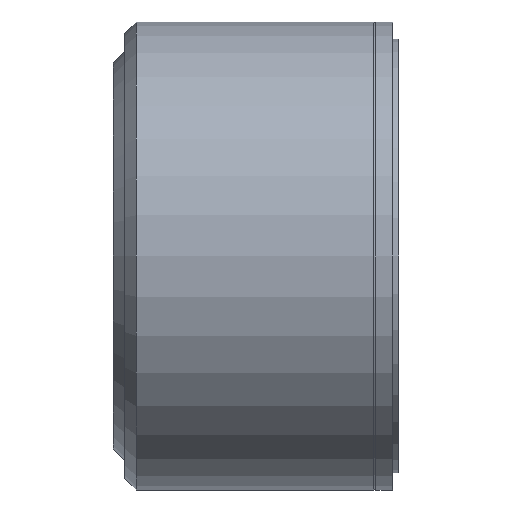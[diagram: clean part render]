
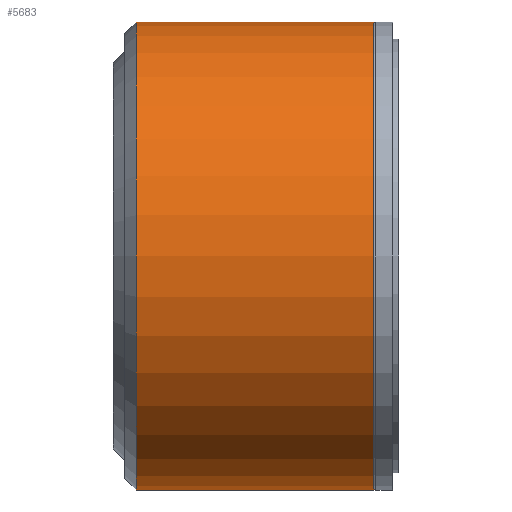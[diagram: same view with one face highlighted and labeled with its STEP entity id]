
A CAD part, left-side view. The second image highlights one B-rep face of the part: STEP entity #5683.
In plain terms, the highlighted cylindrical face has radius 20.5 mm (diameter 41 mm), a partial arc.
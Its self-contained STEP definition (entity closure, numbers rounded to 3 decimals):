
#604 = CARTESIAN_POINT ( 'NONE',  ( 0., -10.3, -20.5 ) ) ;
#2321 = CARTESIAN_POINT ( 'NONE',  ( 0., 10.5, -20.5 ) ) ;
#2438 = VERTEX_POINT ( 'NONE', #2321 ) ;
#2753 = DIRECTION ( 'NONE',  ( 0., 1., 0. ) ) ;
#3576 = EDGE_LOOP ( 'NONE', ( #23448, #8601, #22771, #23367 ) ) ;
#5683 = ADVANCED_FACE ( 'NONE', ( #19057 ), #18915, .T. ) ;
#6016 = CARTESIAN_POINT ( 'NONE',  ( 0., 12.5, 0. ) ) ;
#6397 = DIRECTION ( 'NONE',  ( 0., 0., 1. ) ) ;
#7162 = CARTESIAN_POINT ( 'NONE',  ( 0., 12.5, -20.5 ) ) ;
#7188 = DIRECTION ( 'NONE',  ( 0., 0., 1. ) ) ;
#7379 = VECTOR ( 'NONE', #11792, 1000. ) ;
#8601 = ORIENTED_EDGE ( 'NONE', *, *, #15962, .T. ) ;
#9127 = AXIS2_PLACEMENT_3D ( 'NONE', #20510, #27339, #7188 ) ;
#11506 = LINE ( 'NONE', #7162, #7379 ) ;
#11792 = DIRECTION ( 'NONE',  ( 0., 1., 0. ) ) ;
#12545 = AXIS2_PLACEMENT_3D ( 'NONE', #6016, #14844, #16735 ) ;
#13902 = CARTESIAN_POINT ( 'NONE',  ( 0., 12.5, 20.5 ) ) ;
#14844 = DIRECTION ( 'NONE',  ( 0., 1., 0. ) ) ;
#15962 = EDGE_CURVE ( 'NONE', #27476, #23607, #23108, .T. ) ;
#16668 = EDGE_CURVE ( 'NONE', #27476, #2438, #11506, .T. ) ;
#16735 = DIRECTION ( 'NONE',  ( 0., 0., 1. ) ) ;
#18915 = CYLINDRICAL_SURFACE ( 'NONE', #12545, 20.5 ) ;
#19057 = FACE_OUTER_BOUND ( 'NONE', #3576, .T. ) ;
#19238 = VERTEX_POINT ( 'NONE', #26627 ) ;
#19717 = CARTESIAN_POINT ( 'NONE',  ( 0., -10.3, 0. ) ) ;
#20372 = EDGE_CURVE ( 'NONE', #23607, #19238, #23047, .T. ) ;
#20443 = VECTOR ( 'NONE', #2753, 1000. ) ;
#20510 = CARTESIAN_POINT ( 'NONE',  ( 0., 10.5, 0. ) ) ;
#21188 = CARTESIAN_POINT ( 'NONE',  ( 0., -10.3, 20.5 ) ) ;
#22078 = CIRCLE ( 'NONE', #9127, 20.5 ) ;
#22771 = ORIENTED_EDGE ( 'NONE', *, *, #20372, .T. ) ;
#22838 = EDGE_CURVE ( 'NONE', #2438, #19238, #22078, .T. ) ;
#23047 = LINE ( 'NONE', #13902, #20443 ) ;
#23108 = CIRCLE ( 'NONE', #27266, 20.5 ) ;
#23367 = ORIENTED_EDGE ( 'NONE', *, *, #22838, .F. ) ;
#23448 = ORIENTED_EDGE ( 'NONE', *, *, #16668, .F. ) ;
#23607 = VERTEX_POINT ( 'NONE', #21188 ) ;
#25820 = DIRECTION ( 'NONE',  ( 0., 1., 0. ) ) ;
#26627 = CARTESIAN_POINT ( 'NONE',  ( 0., 10.5, 20.5 ) ) ;
#27266 = AXIS2_PLACEMENT_3D ( 'NONE', #19717, #25820, #6397 ) ;
#27339 = DIRECTION ( 'NONE',  ( 0., 1., 0. ) ) ;
#27476 = VERTEX_POINT ( 'NONE', #604 ) ;
